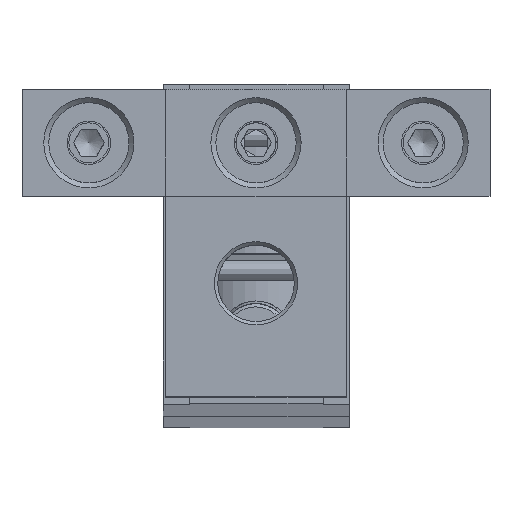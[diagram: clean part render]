
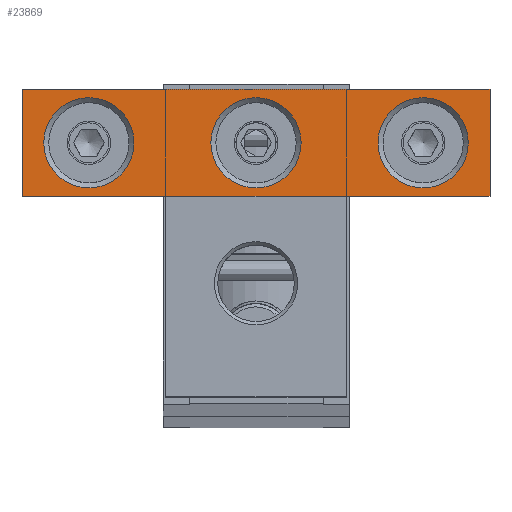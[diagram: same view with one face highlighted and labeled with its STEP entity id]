
A CAD part, top view. The second image highlights one B-rep face of the part: STEP entity #23869.
In plain terms, the highlighted planar face has unit normal (0, 0, 1).
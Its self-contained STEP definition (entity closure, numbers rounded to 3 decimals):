
#1477=LINE('',#45552,#2508);
#1510=LINE('',#45720,#2541);
#1513=LINE('',#45724,#2544);
#1515=LINE('',#45727,#2546);
#2508=VECTOR('',#33180,10.);
#2541=VECTOR('',#33351,10.);
#2544=VECTOR('',#33356,10.);
#2546=VECTOR('',#33360,10.);
#3492=FACE_BOUND('',#6042,.T.);
#3493=FACE_BOUND('',#6043,.T.);
#3494=FACE_BOUND('',#6044,.T.);
#4500=FACE_OUTER_BOUND('',#6041,.T.);
#6041=EDGE_LOOP('',(#19501,#19502,#19503,#19504));
#6042=EDGE_LOOP('',(#19505));
#6043=EDGE_LOOP('',(#19506));
#6044=EDGE_LOOP('',(#19507));
#8010=CIRCLE('',#26825,6.75);
#8012=CIRCLE('',#26829,6.75);
#8015=CIRCLE('',#26834,6.75);
#10335=VERTEX_POINT('',#45549);
#10336=VERTEX_POINT('',#45551);
#10379=VERTEX_POINT('',#45717);
#10380=VERTEX_POINT('',#45719);
#10383=VERTEX_POINT('',#45735);
#10385=VERTEX_POINT('',#45743);
#10388=VERTEX_POINT('',#45753);
#13481=EDGE_CURVE('',#10336,#10335,#1477,.T.);
#13556=EDGE_CURVE('',#10380,#10379,#1510,.T.);
#13559=EDGE_CURVE('',#10379,#10336,#1513,.T.);
#13561=EDGE_CURVE('',#10335,#10380,#1515,.T.);
#13565=EDGE_CURVE('',#10383,#10383,#8010,.T.);
#13569=EDGE_CURVE('',#10385,#10385,#8012,.T.);
#13574=EDGE_CURVE('',#10388,#10388,#8015,.T.);
#19501=ORIENTED_EDGE('',*,*,#13556,.T.);
#19502=ORIENTED_EDGE('',*,*,#13559,.T.);
#19503=ORIENTED_EDGE('',*,*,#13481,.T.);
#19504=ORIENTED_EDGE('',*,*,#13561,.T.);
#19505=ORIENTED_EDGE('',*,*,#13569,.F.);
#19506=ORIENTED_EDGE('',*,*,#13565,.F.);
#19507=ORIENTED_EDGE('',*,*,#13574,.F.);
#21467=PLANE('',#26833);
#23869=ADVANCED_FACE('',(#4500,#3492,#3493,#3494),#21467,.T.);
#26825=AXIS2_PLACEMENT_3D('',#45736,#33370,#33371);
#26829=AXIS2_PLACEMENT_3D('',#45744,#33380,#33381);
#26833=AXIS2_PLACEMENT_3D('',#45752,#33390,#33391);
#26834=AXIS2_PLACEMENT_3D('',#45754,#33392,#33393);
#33180=DIRECTION('',(-1.,0.,0.));
#33351=DIRECTION('',(1.,0.,0.));
#33356=DIRECTION('',(0.,1.,0.));
#33360=DIRECTION('',(0.,-1.,0.));
#33370=DIRECTION('center_axis',(0.,0.,
1.));
#33371=DIRECTION('ref_axis',(-1.,0.,0.));
#33380=DIRECTION('center_axis',(0.,0.,
1.));
#33381=DIRECTION('ref_axis',(-1.,0.,0.));
#33390=DIRECTION('center_axis',(0.,0.,
1.));
#33391=DIRECTION('ref_axis',(1.,0.,0.));
#33392=DIRECTION('center_axis',(0.,0.,
1.));
#33393=DIRECTION('ref_axis',(-1.,0.,0.));
#45549=CARTESIAN_POINT('',(-35.05,23.1,553.5));
#45551=CARTESIAN_POINT('',(34.95,23.1,553.5));
#45552=CARTESIAN_POINT('',(34.95,23.1,553.5));
#45717=CARTESIAN_POINT('',(34.95,7.1,553.5));
#45719=CARTESIAN_POINT('',(-35.05,7.1,553.5));
#45720=CARTESIAN_POINT('',(-35.05,7.1,553.5));
#45724=CARTESIAN_POINT('',(34.95,7.1,553.5));
#45727=CARTESIAN_POINT('',(-35.05,23.1,553.5));
#45735=CARTESIAN_POINT('',(-18.3,15.1,553.5));
#45736=CARTESIAN_POINT('Origin',(-25.05,15.1,553.5));
#45743=CARTESIAN_POINT('',(6.7,15.1,553.5));
#45744=CARTESIAN_POINT('Origin',(-0.05,15.1,553.5));
#45752=CARTESIAN_POINT('Origin',(-0.05,15.1,553.5));
#45753=CARTESIAN_POINT('',(31.7,15.1,553.5));
#45754=CARTESIAN_POINT('Origin',(24.95,15.1,553.5));
